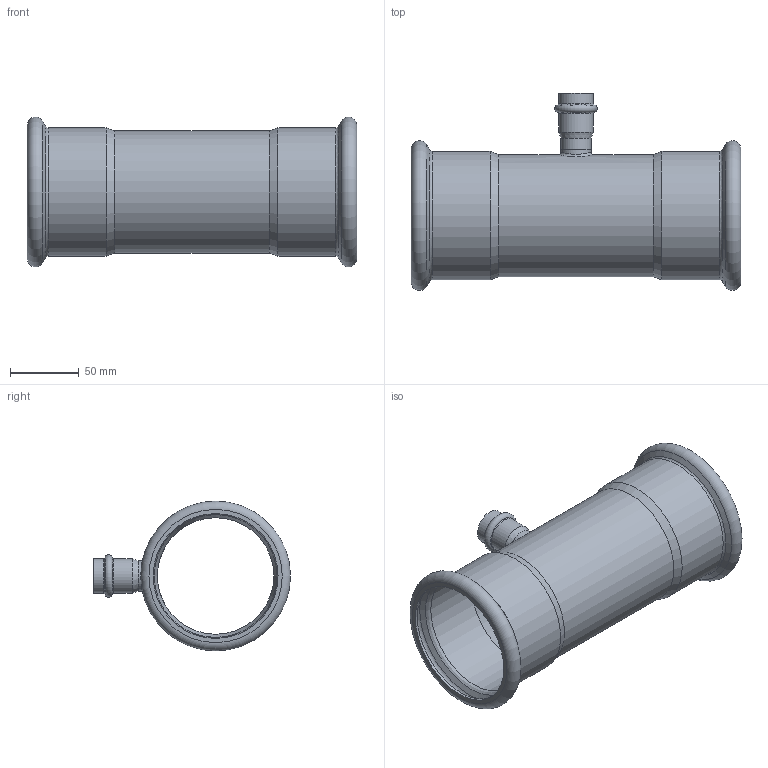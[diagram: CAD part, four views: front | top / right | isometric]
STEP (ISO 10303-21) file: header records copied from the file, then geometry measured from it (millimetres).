
FILE_DESCRIPTION((''),'2;1');
FILE_NAME('G:\Nirosan-Schmiedefeld\Technics\CAD\Bauteile VA\089\69130892289(1).stp','2011-10-28T06:51:00',('herberg'),(''),'Autodesk Inventor 2009','Autodesk Inventor 2009','');
FILE_SCHEMA(('AUTOMOTIVE_DESIGN { 1 0 10303 214 1 1 1 1 }'));
Length unit declared in the file: millimetre
Products named in the file (3): 69130892289(1); LM_69130892289(0); HM_6924322(1)
Assembly tree (2 placements, depth 2):
  69130892289(1)
    LM_69130892289(0)
    HM_6924322(1)
Bounding box: 240 x 143.5 x 109.1 mm (x, y, z)
Volume: 152252.6 mm3; surface area: 155361.2 mm2
Topology: 2 solids, 2 shells, 51 faces, 105 edges, 60 vertices
Faces by surface type: cylinder 16, cone 12, bspline 10, plane 7, torus 6
Full cylindrical faces by diameter (mm): 18 x1, 19 x1, 22 x2, 22.15 x2, 25.15 x2, 84.9 x1, 88.9 x1, 89.5 x2, 91 x2, 93.5 x2
Entity records: 2792 total; most frequent: CARTESIAN_POINT 1867, DIRECTION 190, ORIENTED_EDGE 108, EDGE_LOOP 102, AXIS2_PLACEMENT_3D 95, EDGE_CURVE 54, VERTEX_POINT 52, FACE_OUTER_BOUND 51
